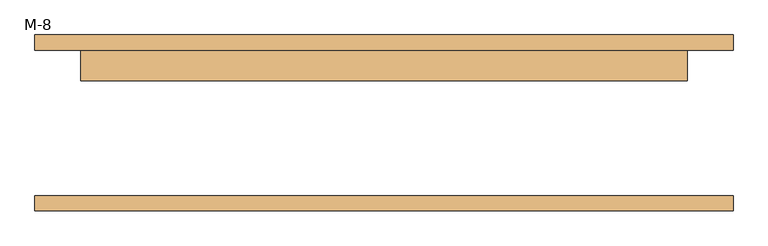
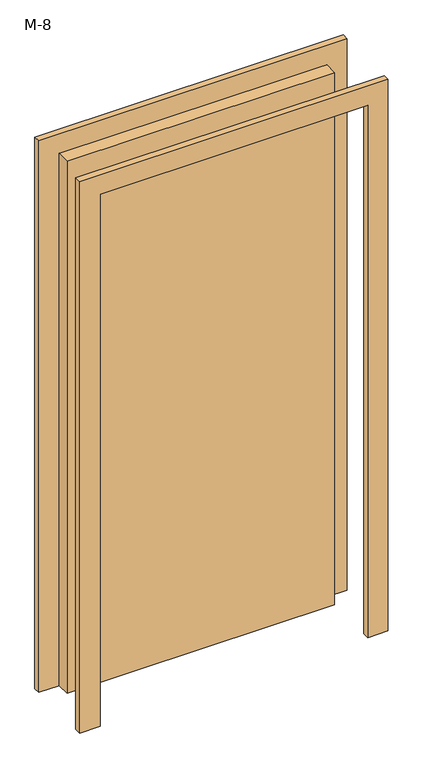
"""IFC4 building model written with IfcOpenShell, lengths in millimetres: door geometry, 单扇 - 与墙齐 : M-8."""

from ifc_helpers import new_model, si_unit, frame, origin, origin_with_axes, place, context, project, spatial, polyline, outline, extrude, source, transform, mapped, element, save


def m_8_28e287ba(model_context):
    return source(origin(), model_context, "Body", "SweptSolid", [
        extrude(outline(polyline([(2176.0, -576.0), (0.0, -576.0), (0.0, -500.0), (2100.0, -500.0), (2100.0, 500.0), (0.0, 500.0), (0.0, 576.0), (2176.0, 576.0), (2176.0, -576.0)])), frame((0.0, 120.0, 0.0), z_axis=(0.0, 1.0, 0.0), x_axis=(0.0, 0.0, 1.0)), (0.0, 0.0, 1.0), 25.0),
        extrude(outline(polyline([(2176.0, 576.0), (2176.0, -576.0), (0.0, -576.0), (0.0, -500.0), (2100.0, -500.0), (2100.0, 500.0), (0.0, 500.0), (0.0, 576.0), (2176.0, 576.0)])), frame((0.0, -145.0, 0.0), z_axis=(0.0, 1.0, 0.0), x_axis=(0.0, 0.0, 1.0)), (0.0, 0.0, 1.0), 25.0),
        extrude(outline(polyline([(500.0, 69.0), (-500.0, 69.0), (-500.0, 120.0), (500.0, 120.0), (500.0, 69.0)])), origin_with_axes(), (0.0, 0.0, 1.0), 2100.0),
    ])


if __name__ == "__main__":
    model = new_model("IFC4")
    model_context = context("Model", 3, world=origin())
    ifc_project = project(units=[si_unit("LENGTHUNIT", "METRE", prefix="MILLI")], contexts=[model_context])
    site = spatial("IfcSite", under=ifc_project)
    building = spatial("IfcBuilding", under=site)
    placement = place(None, origin())
    m_8_shape = m_8_28e287ba(model_context)
    element("IfcDoor", 1, ObjectType="单扇 - 与墙齐 : M-8", at=placement, inside=building, context=model_context, shape_type="MappedRepresentation", body=[
        mapped(m_8_shape, transform((0.0, 0.0, 0.0), x_axis=(1.0, 0.0, 0.0), y_axis=(0.0, 1.0, 0.0), z_axis=(0.0, 0.0, 1.0))),
    ])
    save(model, "model.ifc")
